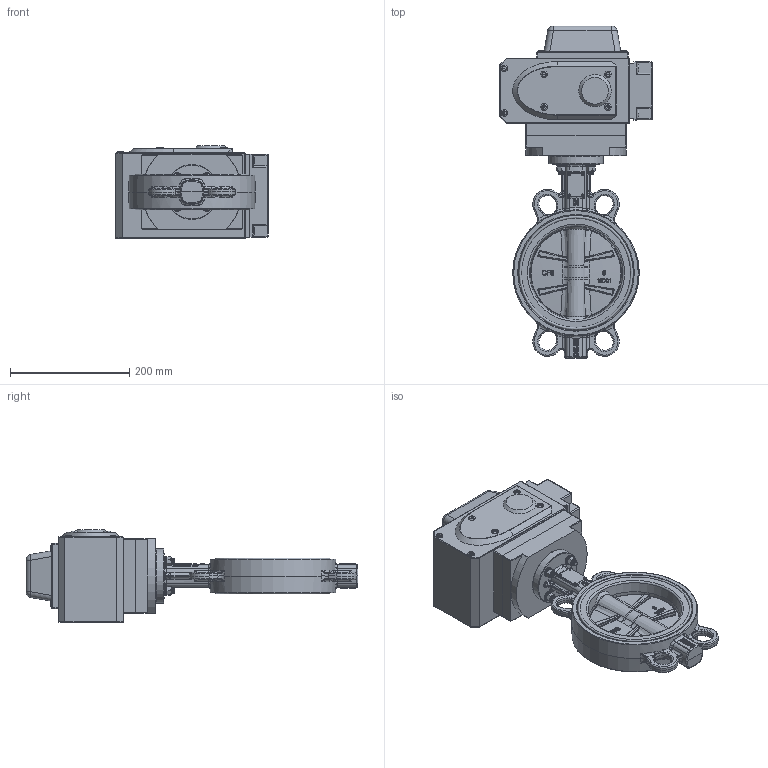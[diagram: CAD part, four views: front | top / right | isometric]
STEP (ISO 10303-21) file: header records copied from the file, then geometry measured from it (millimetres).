
FILE_DESCRIPTION(/* description */ (''),/* implementation_level */ '2;1');
FILE_NAME(/* name */ 'RSV81A220_380-DN150.stp',/* time_stamp */ '2024-08-20T14:17:12+07:00',/* author */ ('Eva'),/* organization */ (''),/* preprocessor_version */ 'ST-DEVELOPER v20',/* originating_system */ 'Autodesk Inventor 2025',/* authorisation */ '');
FILE_SCHEMA (('AUTOMOTIVE_DESIGN { 1 0 10303 214 3 1 1 }'));
Products named in the file (9): RSV81A220_380-DN150; DN150·§Ме; DN150Ин·§Чщ; DN150·§°е; ЖЅµжИ¦ Cј¶(ЖЅµжИ¦C
ј¶ 8); ±кЧјРНµЇ»ЙµжИ¦(±
кЧјРНµЇ»ЙµжИ¦ 8); БщЅЗВЭДё Cј¶(
БщЅЗВЭДё Cј¶  M8-S); ДЪБщЅЗіБН·ВЭ¶¤(ДЪБщЅЗіБН·ВЭ¶¤ 
M8X40-S); ѕ«РЎРНµзЧ°
Assembly tree (24 placements, depth 2):
  RSV81A220_380-DN150
    DN150·§Ме
    DN150Ин·§Чщ
    DN150·§°е
    ДЪБщЅЗіБН·ВЭ¶¤(ДЪБщЅЗіБН·ВЭ¶¤ 
M8X40-S)  x5
    ЖЅµжИ¦ Cј¶(ЖЅµжИ¦C
ј¶ 8)  x5
    ±кЧјРНµЇ»ЙµжИ¦(±
кЧјРНµЇ»ЙµжИ¦ 8)  x5
    БщЅЗВЭДё Cј¶(
БщЅЗВЭДё Cј¶  M8-S)  x5
    ѕ«РЎРНµзЧ°
Bounding box: 256 x 557.43 x 156 mm (x, y, z)
Volume: 7209654.3 mm3; surface area: 528664.6 mm2
Topology: 24 solids, 24 shells, 2411 faces, 6016 edges, 3656 vertices
Faces by surface type: bspline 597, plane 577, cylinder 538, cone 524, torus 131, sphere 44
Full cylindrical faces by diameter (mm): 6.647 x50, 8 x170, 9 x5, 11.037 x4, 11.059 x6, 11.745 x4, 15.24 x5, 16 x5, 19.2 x6, 21.8 x1, 22 x2, 26 x1, 92 x1, 166.3 x2, 191.5 x2
Entity records: 87867 total; most frequent: CARTESIAN_POINT 50002, ORIENTED_EDGE 8406, DIRECTION 6934, EDGE_CURVE 4203, AXIS2_PLACEMENT_3D 2798, VERTEX_POINT 2552, EDGE_LOOP 1795, FACE_OUTER_BOUND 1719
